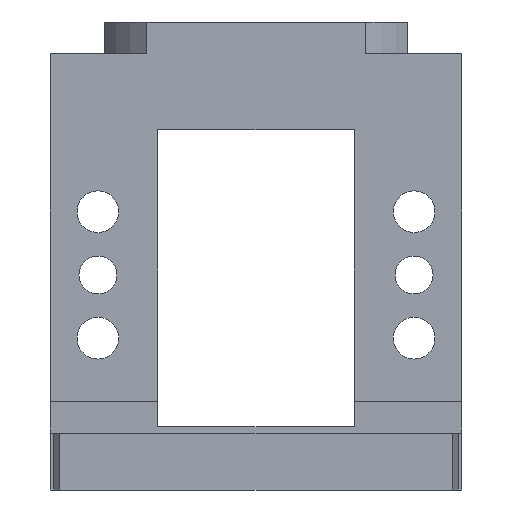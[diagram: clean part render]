
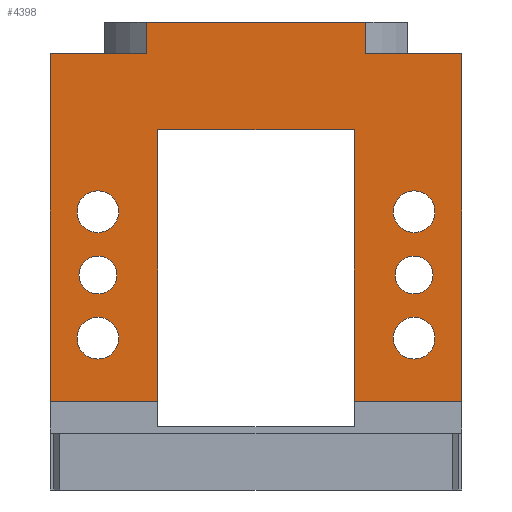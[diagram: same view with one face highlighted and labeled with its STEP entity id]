
A CAD part, front view. The second image highlights one B-rep face of the part: STEP entity #4398.
In plain terms, the highlighted planar face has unit normal (0, -1, 0).
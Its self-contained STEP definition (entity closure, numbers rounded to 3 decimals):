
#386=DIRECTION('',(0.,0.,1.));
#387=VECTOR('',#386,5.);
#388=CARTESIAN_POINT('',(-17.321,-22.,64.));
#389=LINE('',#388,#387);
#394=CARTESIAN_POINT('',(-25.,-22.,29.));
#395=DIRECTION('',(0.,1.,0.));
#396=DIRECTION('',(0.,0.,-1.));
#397=AXIS2_PLACEMENT_3D('',#394,#395,#396);
#399=CARTESIAN_POINT('',(-25.,-22.,29.));
#400=DIRECTION('',(0.,1.,0.));
#401=DIRECTION('',(0.,0.,1.));
#402=AXIS2_PLACEMENT_3D('',#399,#400,#401);
#404=CARTESIAN_POINT('',(25.,-22.,29.));
#405=DIRECTION('',(0.,1.,0.));
#406=DIRECTION('',(0.,0.,-1.));
#407=AXIS2_PLACEMENT_3D('',#404,#405,#406);
#409=CARTESIAN_POINT('',(25.,-22.,29.));
#410=DIRECTION('',(0.,1.,0.));
#411=DIRECTION('',(0.,0.,1.));
#412=AXIS2_PLACEMENT_3D('',#409,#410,#411);
#414=CARTESIAN_POINT('',(-25.,-22.,39.));
#415=DIRECTION('',(0.,1.,0.));
#416=DIRECTION('',(-1.,0.,0.));
#417=AXIS2_PLACEMENT_3D('',#414,#415,#416);
#419=CARTESIAN_POINT('',(-25.,-22.,39.));
#420=DIRECTION('',(0.,1.,0.));
#421=DIRECTION('',(0.,0.,-1.));
#422=AXIS2_PLACEMENT_3D('',#419,#420,#421);
#424=CARTESIAN_POINT('',(-25.,-22.,39.));
#425=DIRECTION('',(0.,1.,0.));
#426=DIRECTION('',(0.,0.,1.));
#427=AXIS2_PLACEMENT_3D('',#424,#425,#426);
#429=CARTESIAN_POINT('',(-25.,-22.,19.));
#430=DIRECTION('',(0.,1.,0.));
#431=DIRECTION('',(-1.,0.,0.));
#432=AXIS2_PLACEMENT_3D('',#429,#430,#431);
#434=CARTESIAN_POINT('',(-25.,-22.,19.));
#435=DIRECTION('',(0.,1.,0.));
#436=DIRECTION('',(0.,0.,-1.));
#437=AXIS2_PLACEMENT_3D('',#434,#435,#436);
#439=CARTESIAN_POINT('',(-25.,-22.,19.));
#440=DIRECTION('',(0.,1.,0.));
#441=DIRECTION('',(0.,0.,1.));
#442=AXIS2_PLACEMENT_3D('',#439,#440,#441);
#444=CARTESIAN_POINT('',(25.,-22.,39.));
#445=DIRECTION('',(0.,1.,0.));
#446=DIRECTION('',(-1.,0.,0.));
#447=AXIS2_PLACEMENT_3D('',#444,#445,#446);
#449=CARTESIAN_POINT('',(25.,-22.,39.));
#450=DIRECTION('',(0.,1.,0.));
#451=DIRECTION('',(0.,0.,-1.));
#452=AXIS2_PLACEMENT_3D('',#449,#450,#451);
#454=CARTESIAN_POINT('',(25.,-22.,39.));
#455=DIRECTION('',(0.,1.,0.));
#456=DIRECTION('',(0.,0.,1.));
#457=AXIS2_PLACEMENT_3D('',#454,#455,#456);
#459=CARTESIAN_POINT('',(25.,-22.,19.));
#460=DIRECTION('',(0.,1.,0.));
#461=DIRECTION('',(-1.,0.,0.));
#462=AXIS2_PLACEMENT_3D('',#459,#460,#461);
#464=CARTESIAN_POINT('',(25.,-22.,19.));
#465=DIRECTION('',(0.,1.,0.));
#466=DIRECTION('',(0.,0.,-1.));
#467=AXIS2_PLACEMENT_3D('',#464,#465,#466);
#469=CARTESIAN_POINT('',(25.,-22.,19.));
#470=DIRECTION('',(0.,1.,0.));
#471=DIRECTION('',(0.,0.,1.));
#472=AXIS2_PLACEMENT_3D('',#469,#470,#471);
#474=DIRECTION('',(-1.,0.,0.));
#475=VECTOR('',#474,34.641);
#476=CARTESIAN_POINT('',(17.321,-22.,69.));
#477=LINE('',#476,#475);
#478=DIRECTION('',(0.,0.,1.));
#479=VECTOR('',#478,55.);
#480=CARTESIAN_POINT('',(32.5,-22.,9.));
#481=LINE('',#480,#479);
#482=DIRECTION('',(1.,0.,0.));
#483=VECTOR('',#482,31.);
#484=CARTESIAN_POINT('',(-15.5,-22.,52.));
#485=LINE('',#484,#483);
#486=DIRECTION('',(0.,0.,1.));
#487=VECTOR('',#486,43.);
#488=CARTESIAN_POINT('',(-15.5,-22.,9.));
#489=LINE('',#488,#487);
#490=DIRECTION('',(-1.,0.,0.));
#491=VECTOR('',#490,15.179);
#492=CARTESIAN_POINT('',(-17.321,-22.,64.));
#493=LINE('',#492,#491);
#937=DIRECTION('',(0.,0.,1.));
#938=VECTOR('',#937,55.);
#939=CARTESIAN_POINT('',(-32.5,-22.,9.));
#940=LINE('',#939,#938);
#941=DIRECTION('',(-1.,0.,0.));
#942=VECTOR('',#941,17.);
#943=CARTESIAN_POINT('',(-15.5,-22.,9.));
#944=LINE('',#943,#942);
#981=DIRECTION('',(0.,0.,1.));
#982=VECTOR('',#981,43.);
#983=CARTESIAN_POINT('',(15.5,-22.,9.));
#984=LINE('',#983,#982);
#985=DIRECTION('',(-1.,0.,0.));
#986=VECTOR('',#985,17.);
#987=CARTESIAN_POINT('',(32.5,-22.,9.));
#988=LINE('',#987,#986);
#1005=DIRECTION('',(1.,0.,0.));
#1006=VECTOR('',#1005,15.179);
#1007=CARTESIAN_POINT('',(17.321,-22.,64.));
#1008=LINE('',#1007,#1006);
#1028=DIRECTION('',(0.,0.,-1.));
#1029=VECTOR('',#1028,5.);
#1030=CARTESIAN_POINT('',(17.321,-22.,69.));
#1031=LINE('',#1030,#1029);
#3022=CARTESIAN_POINT('',(17.321,-22.,64.));
#3023=VERTEX_POINT('',#3022);
#3024=CARTESIAN_POINT('',(32.5,-22.,64.));
#3025=VERTEX_POINT('',#3024);
#3034=CARTESIAN_POINT('',(15.5,-22.,52.));
#3035=VERTEX_POINT('',#3034);
#3036=CARTESIAN_POINT('',(-15.5,-22.,52.));
#3037=VERTEX_POINT('',#3036);
#3051=CARTESIAN_POINT('',(-17.321,-22.,69.));
#3052=VERTEX_POINT('',#3051);
#3053=CARTESIAN_POINT('',(17.321,-22.,69.));
#3054=VERTEX_POINT('',#3053);
#3061=CARTESIAN_POINT('',(-17.321,-22.,64.));
#3062=VERTEX_POINT('',#3061);
#3068=CARTESIAN_POINT('',(-32.5,-22.,64.));
#3069=VERTEX_POINT('',#3068);
#3070=CARTESIAN_POINT('',(-32.5,-22.,9.));
#3071=VERTEX_POINT('',#3070);
#3072=CARTESIAN_POINT('',(-15.5,-22.,9.));
#3073=VERTEX_POINT('',#3072);
#3074=CARTESIAN_POINT('',(15.5,-22.,9.));
#3075=VERTEX_POINT('',#3074);
#3076=CARTESIAN_POINT('',(32.5,-22.,9.));
#3077=VERTEX_POINT('',#3076);
#3438=CARTESIAN_POINT('',(-25.,-22.,32.));
#3440=VERTEX_POINT('',#3438);
#3442=CARTESIAN_POINT('',(-25.,-22.,26.));
#3444=VERTEX_POINT('',#3442);
#3446=CARTESIAN_POINT('',(25.,-22.,26.));
#3448=VERTEX_POINT('',#3446);
#3450=CARTESIAN_POINT('',(25.,-22.,32.));
#3452=VERTEX_POINT('',#3450);
#3573=CARTESIAN_POINT('',(25.,-22.,35.7));
#3575=VERTEX_POINT('',#3573);
#3577=CARTESIAN_POINT('',(25.,-22.,42.3));
#3579=VERTEX_POINT('',#3577);
#3581=CARTESIAN_POINT('',(21.7,-22.,39.));
#3582=VERTEX_POINT('',#3581);
#3591=CARTESIAN_POINT('',(25.,-22.,15.7));
#3593=VERTEX_POINT('',#3591);
#3595=CARTESIAN_POINT('',(25.,-22.,22.3));
#3597=VERTEX_POINT('',#3595);
#3599=CARTESIAN_POINT('',(21.7,-22.,19.));
#3600=VERTEX_POINT('',#3599);
#3609=CARTESIAN_POINT('',(-25.,-22.,15.7));
#3611=VERTEX_POINT('',#3609);
#3613=CARTESIAN_POINT('',(-25.,-22.,22.3));
#3615=VERTEX_POINT('',#3613);
#3617=CARTESIAN_POINT('',(-28.3,-22.,19.));
#3618=VERTEX_POINT('',#3617);
#3627=CARTESIAN_POINT('',(-25.,-22.,35.7));
#3629=VERTEX_POINT('',#3627);
#3631=CARTESIAN_POINT('',(-25.,-22.,42.3));
#3633=VERTEX_POINT('',#3631);
#3635=CARTESIAN_POINT('',(-28.3,-22.,39.));
#3636=VERTEX_POINT('',#3635);
#4326=CARTESIAN_POINT('',(32.5,-22.,64.));
#4327=DIRECTION('',(0.,1.,0.));
#4328=DIRECTION('',(1.,0.,0.));
#4329=AXIS2_PLACEMENT_3D('',#4326,#4327,#4328);
#4330=PLANE('',#4329);
#4331=ORIENTED_EDGE('',*,*,#4318,.T.);
#4332=ORIENTED_EDGE('',*,*,#3847,.F.);
#4334=ORIENTED_EDGE('',*,*,#4333,.T.);
#4336=ORIENTED_EDGE('',*,*,#4335,.T.);
#4338=ORIENTED_EDGE('',*,*,#4337,.F.);
#4340=ORIENTED_EDGE('',*,*,#4339,.T.);
#4342=ORIENTED_EDGE('',*,*,#4341,.T.);
#4343=ORIENTED_EDGE('',*,*,#4250,.F.);
#4345=ORIENTED_EDGE('',*,*,#4344,.F.);
#4347=ORIENTED_EDGE('',*,*,#4346,.T.);
#4349=ORIENTED_EDGE('',*,*,#4348,.T.);
#4351=ORIENTED_EDGE('',*,*,#4350,.F.);
#4352=EDGE_LOOP('',(#4331,#4332,#4334,#4336,#4338,#4340,#4342,#4343,#4345,#4347,
#4349,#4351));
#4353=FACE_OUTER_BOUND('',#4352,.F.);
#4355=ORIENTED_EDGE('',*,*,#4354,.F.);
#4357=ORIENTED_EDGE('',*,*,#4356,.F.);
#4358=EDGE_LOOP('',(#4355,#4357));
#4359=FACE_BOUND('',#4358,.F.);
#4361=ORIENTED_EDGE('',*,*,#4360,.F.);
#4363=ORIENTED_EDGE('',*,*,#4362,.F.);
#4365=ORIENTED_EDGE('',*,*,#4364,.F.);
#4366=EDGE_LOOP('',(#4361,#4363,#4365));
#4367=FACE_BOUND('',#4366,.F.);
#4369=ORIENTED_EDGE('',*,*,#4368,.F.);
#4371=ORIENTED_EDGE('',*,*,#4370,.F.);
#4373=ORIENTED_EDGE('',*,*,#4372,.F.);
#4374=EDGE_LOOP('',(#4369,#4371,#4373));
#4375=FACE_BOUND('',#4374,.F.);
#4377=ORIENTED_EDGE('',*,*,#4376,.F.);
#4379=ORIENTED_EDGE('',*,*,#4378,.F.);
#4381=ORIENTED_EDGE('',*,*,#4380,.F.);
#4382=EDGE_LOOP('',(#4377,#4379,#4381));
#4383=FACE_BOUND('',#4382,.F.);
#4385=ORIENTED_EDGE('',*,*,#4384,.F.);
#4387=ORIENTED_EDGE('',*,*,#4386,.F.);
#4389=ORIENTED_EDGE('',*,*,#4388,.F.);
#4390=EDGE_LOOP('',(#4385,#4387,#4389));
#4391=FACE_BOUND('',#4390,.F.);
#4393=ORIENTED_EDGE('',*,*,#4392,.F.);
#4395=ORIENTED_EDGE('',*,*,#4394,.F.);
#4396=EDGE_LOOP('',(#4393,#4395));
#4397=FACE_BOUND('',#4396,.F.);
#398=CIRCLE('',#397,3.);
#403=CIRCLE('',#402,3.);
#408=CIRCLE('',#407,3.);
#413=CIRCLE('',#412,3.);
#418=CIRCLE('',#417,3.3);
#423=CIRCLE('',#422,3.3);
#428=CIRCLE('',#427,3.3);
#433=CIRCLE('',#432,3.3);
#438=CIRCLE('',#437,3.3);
#443=CIRCLE('',#442,3.3);
#448=CIRCLE('',#447,3.3);
#453=CIRCLE('',#452,3.3);
#458=CIRCLE('',#457,3.3);
#463=CIRCLE('',#462,3.3);
#468=CIRCLE('',#467,3.3);
#473=CIRCLE('',#472,3.3);
#3847=EDGE_CURVE('',#3054,#3052,#477,.T.);
#4250=EDGE_CURVE('',#3037,#3035,#485,.T.);
#4318=EDGE_CURVE('',#3062,#3052,#389,.T.);
#4333=EDGE_CURVE('',#3054,#3023,#1031,.T.);
#4335=EDGE_CURVE('',#3023,#3025,#1008,.T.);
#4337=EDGE_CURVE('',#3077,#3025,#481,.T.);
#4339=EDGE_CURVE('',#3077,#3075,#988,.T.);
#4341=EDGE_CURVE('',#3075,#3035,#984,.T.);
#4344=EDGE_CURVE('',#3073,#3037,#489,.T.);
#4346=EDGE_CURVE('',#3073,#3071,#944,.T.);
#4348=EDGE_CURVE('',#3071,#3069,#940,.T.);
#4350=EDGE_CURVE('',#3062,#3069,#493,.T.);
#4354=EDGE_CURVE('',#3448,#3452,#408,.T.);
#4356=EDGE_CURVE('',#3452,#3448,#413,.T.);
#4360=EDGE_CURVE('',#3636,#3633,#418,.T.);
#4362=EDGE_CURVE('',#3629,#3636,#423,.T.);
#4364=EDGE_CURVE('',#3633,#3629,#428,.T.);
#4368=EDGE_CURVE('',#3618,#3615,#433,.T.);
#4370=EDGE_CURVE('',#3611,#3618,#438,.T.);
#4372=EDGE_CURVE('',#3615,#3611,#443,.T.);
#4376=EDGE_CURVE('',#3582,#3579,#448,.T.);
#4378=EDGE_CURVE('',#3575,#3582,#453,.T.);
#4380=EDGE_CURVE('',#3579,#3575,#458,.T.);
#4384=EDGE_CURVE('',#3600,#3597,#463,.T.);
#4386=EDGE_CURVE('',#3593,#3600,#468,.T.);
#4388=EDGE_CURVE('',#3597,#3593,#473,.T.);
#4392=EDGE_CURVE('',#3444,#3440,#398,.T.);
#4394=EDGE_CURVE('',#3440,#3444,#403,.T.);
#4398=ADVANCED_FACE('',(#4353,#4359,#4367,#4375,#4383,#4391,#4397),#4330,.F.);
